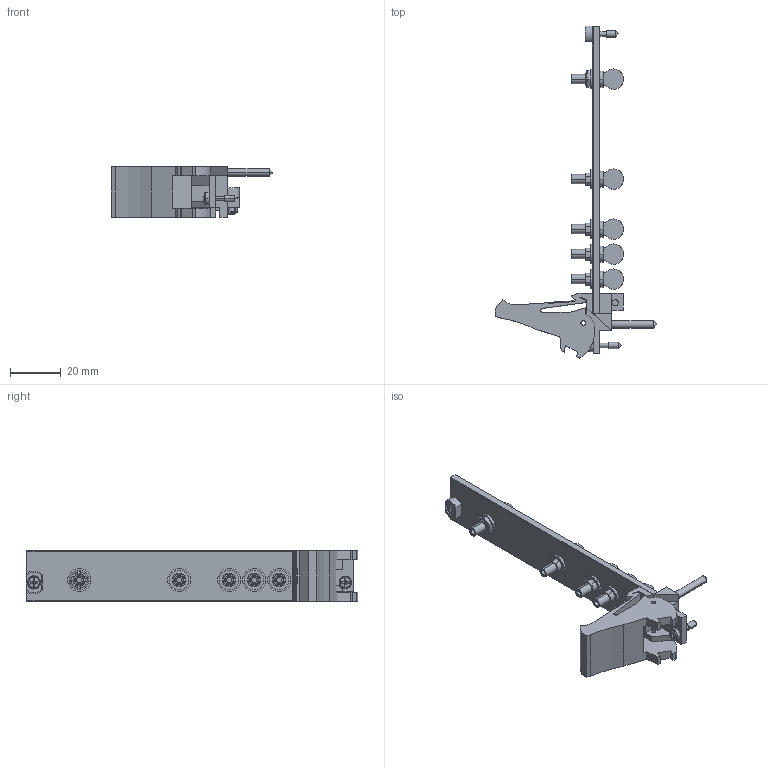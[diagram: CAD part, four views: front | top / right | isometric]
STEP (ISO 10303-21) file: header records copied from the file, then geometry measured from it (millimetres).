
FILE_DESCRIPTION((''),'2;1');
FILE_NAME('CU_PXI-5404','2009-10-23T',('jjorden'),(''),'PRO/ENGINEER BY PARAMETRIC TECHNOLOGY CORPORATION, 2006080','PRO/ENGINEER BY PARAMETRIC TECHNOLOGY CORPORATION, 2006080','');
FILE_SCHEMA(('CONFIG_CONTROL_DESIGN'));
Length unit declared in the file: inch
Products named in the file (1): CU_PXI-5404
Bounding box: 63.53 x 130.5 x 20.02 mm (x, y, z)
Volume: 17676.4 mm3; surface area: 14527.5 mm2
Topology: 1 solids, 1 shells, 568 faces, 1436 edges, 935 vertices
Faces by surface type: plane 387, cylinder 157, cone 14, sphere 6, torus 4
Entity records: 17396 total; most frequent: CARTESIAN_POINT 3299, DIRECTION 2977, ORIENTED_EDGE 2864, EDGE_CURVE 1432, AXIS2_PLACEMENT_3D 1006, VECTOR 965, LINE 965, VERTEX_POINT 935
